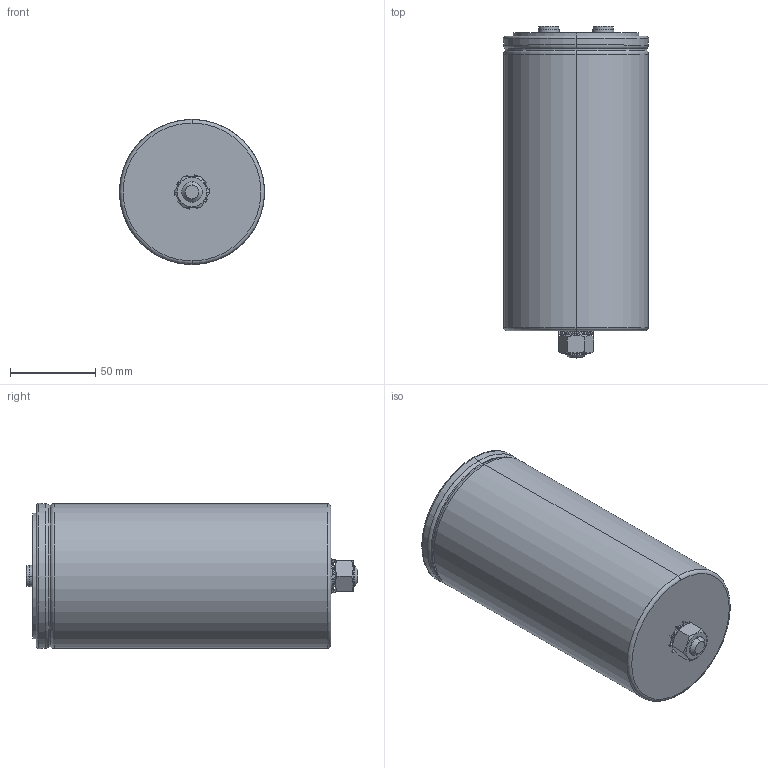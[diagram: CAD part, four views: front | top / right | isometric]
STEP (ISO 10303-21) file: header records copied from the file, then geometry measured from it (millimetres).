
FILE_DESCRIPTION (( 'STEP AP203' ), '1' );
FILE_NAME ('B25620Bx_85x173_179.STEP', '2021-07-01T02:54:22', ( '' ), ( '' ), 'SwSTEP 2.0', 'SolidWorks 2017', '' );
FILE_SCHEMA (( 'CONFIG_CONTROL_DESIGN' ));
Length unit declared in the file: millimetre
Products named in the file (1): B25620Bx_85x173_179
Bounding box: 85.4 x 195 x 85.4 mm (x, y, z)
Volume: 70614.2 mm3; surface area: 121172.9 mm2
Topology: 2 solids, 3 shells, 234 faces, 540 edges, 338 vertices
Faces by surface type: cylinder 85, plane 55, bspline 48, cone 30, torus 16
Entity records: 7453 total; most frequent: CARTESIAN_POINT 2221, ORIENTED_EDGE 1072, DIRECTION 1048, EDGE_CURVE 536, AXIS2_PLACEMENT_3D 423, VERTEX_POINT 338, EDGE_LOOP 266, CIRCLE 236
